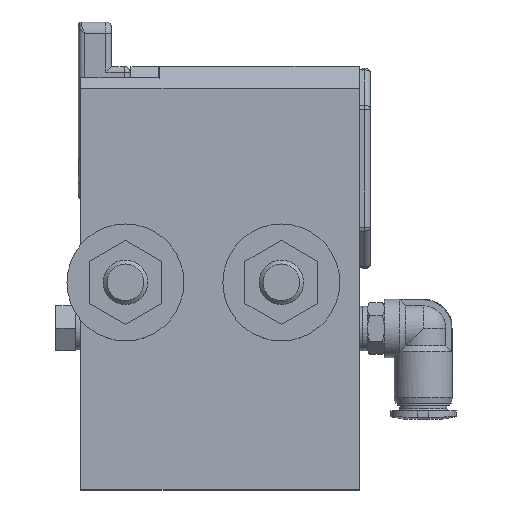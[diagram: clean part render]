
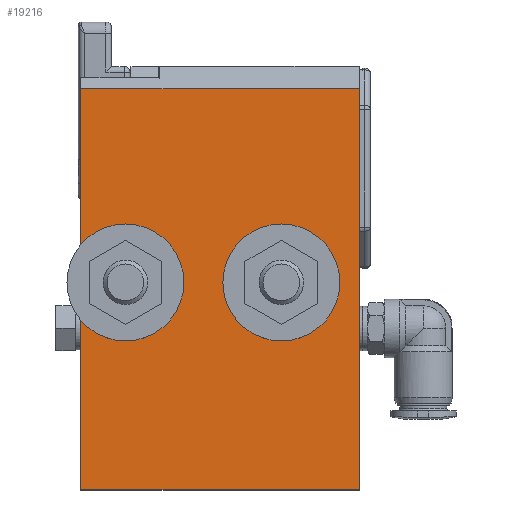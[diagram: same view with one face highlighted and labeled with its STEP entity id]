
A CAD part, top view. The second image highlights one B-rep face of the part: STEP entity #19216.
In plain terms, the highlighted planar face has unit normal (0, 0, 1).
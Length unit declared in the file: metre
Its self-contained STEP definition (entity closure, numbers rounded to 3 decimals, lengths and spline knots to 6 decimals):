
#166 = DIRECTION ( 'NONE',  ( 0., 0., 1. ) ) ;
#561 = LINE ( 'NONE', #8692, #12507 ) ;
#938 = LINE ( 'NONE', #5942, #5884 ) ;
#979 = EDGE_CURVE ( 'NONE', #3862, #24183, #561, .T. ) ;
#1188 = AXIS2_PLACEMENT_3D ( 'NONE', #12855, #166, #15000 ) ;
#1417 = EDGE_CURVE ( 'NONE', #5812, #5812, #19407, .T. ) ;
#2676 = EDGE_CURVE ( 'NONE', #15685, #6953, #21649, .T. ) ;
#2987 = CIRCLE ( 'NONE', #1188, 0.0051 ) ;
#3862 = VERTEX_POINT ( 'NONE', #18558 ) ;
#4079 = CARTESIAN_POINT ( 'NONE',  ( 0.0005, 0.0388, 0.02 ) ) ;
#4324 = EDGE_CURVE ( 'NONE', #6953, #3862, #22702, .T. ) ;
#4362 = EDGE_LOOP ( 'NONE', ( #13450, #10790, #14736, #19642 ) ) ;
#5812 = VERTEX_POINT ( 'NONE', #8558 ) ;
#5884 = VECTOR ( 'NONE', #8082, 1. ) ;
#5942 = CARTESIAN_POINT ( 'NONE',  ( 0.0005, -0.0372, 0.02 ) ) ;
#6483 = VECTOR ( 'NONE', #20205, 1. ) ;
#6953 = VERTEX_POINT ( 'NONE', #21683 ) ;
#7360 = CARTESIAN_POINT ( 'NONE',  ( 0.0005, -0.0372, 0.02 ) ) ;
#8082 = DIRECTION ( 'NONE',  ( 0., -1., 0. ) ) ;
#8290 = ORIENTED_EDGE ( 'NONE', *, *, #1417, .F. ) ;
#8558 = CARTESIAN_POINT ( 'NONE',  ( 0.0416, 0., 0.02 ) ) ;
#8643 = CARTESIAN_POINT ( 'NONE',  ( 0.0365, 0., 0.02 ) ) ;
#8692 = CARTESIAN_POINT ( 'NONE',  ( 0.0005, 0.0348, 0.02 ) ) ;
#9732 = EDGE_CURVE ( 'NONE', #20036, #20036, #2987, .T. ) ;
#10488 = DIRECTION ( 'NONE',  ( -1., 0., 0. ) ) ;
#10785 = DIRECTION ( 'NONE',  ( 1., 0., 0. ) ) ;
#10790 = ORIENTED_EDGE ( 'NONE', *, *, #979, .T. ) ;
#11323 = AXIS2_PLACEMENT_3D ( 'NONE', #8643, #23412, #10785 ) ;
#12507 = VECTOR ( 'NONE', #17207, 1. ) ;
#12513 = PLANE ( 'NONE',  #24263 ) ;
#12855 = CARTESIAN_POINT ( 'NONE',  ( 0.0085, 0., 0.02 ) ) ;
#12904 = CARTESIAN_POINT ( 'NONE',  ( 0.0136, 0., 0.02 ) ) ;
#13263 = EDGE_LOOP ( 'NONE', ( #8290 ) ) ;
#13450 = ORIENTED_EDGE ( 'NONE', *, *, #4324, .T. ) ;
#14736 = ORIENTED_EDGE ( 'NONE', *, *, #18738, .T. ) ;
#15000 = DIRECTION ( 'NONE',  ( 1., 0., 0. ) ) ;
#15481 = ORIENTED_EDGE ( 'NONE', *, *, #9732, .F. ) ;
#15685 = VERTEX_POINT ( 'NONE', #21127 ) ;
#16156 = EDGE_LOOP ( 'NONE', ( #15481 ) ) ;
#17207 = DIRECTION ( 'NONE',  ( -1., 0., 0. ) ) ;
#18558 = CARTESIAN_POINT ( 'NONE',  ( 0.0505, 0.0348, 0.02 ) ) ;
#18738 = EDGE_CURVE ( 'NONE', #24183, #15685, #938, .T. ) ;
#19216 = ADVANCED_FACE ( 'NONE', ( #22056, #27029, #21395 ), #12513, .F. ) ;
#19407 = CIRCLE ( 'NONE', #11323, 0.0051 ) ;
#19642 = ORIENTED_EDGE ( 'NONE', *, *, #2676, .T. ) ;
#20036 = VERTEX_POINT ( 'NONE', #12904 ) ;
#20205 = DIRECTION ( 'NONE',  ( 0., 1., 0. ) ) ;
#21127 = CARTESIAN_POINT ( 'NONE',  ( 0.0005, -0.0372, 0.02 ) ) ;
#21395 = FACE_OUTER_BOUND ( 'NONE', #4362, .T. ) ;
#21468 = CARTESIAN_POINT ( 'NONE',  ( 0.0005, 0.0348, 0.02 ) ) ;
#21649 = LINE ( 'NONE', #7360, #27289 ) ;
#21683 = CARTESIAN_POINT ( 'NONE',  ( 0.0505, -0.0372, 0.02 ) ) ;
#22056 = FACE_BOUND ( 'NONE', #16156, .T. ) ;
#22315 = CARTESIAN_POINT ( 'NONE',  ( 0.0505, -0.0372, 0.02 ) ) ;
#22702 = LINE ( 'NONE', #22315, #6483 ) ;
#23098 = DIRECTION ( 'NONE',  ( 0., 0., -1. ) ) ;
#23412 = DIRECTION ( 'NONE',  ( 0., 0., 1. ) ) ;
#24183 = VERTEX_POINT ( 'NONE', #21468 ) ;
#24263 = AXIS2_PLACEMENT_3D ( 'NONE', #4079, #23098, #10488 ) ;
#24274 = DIRECTION ( 'NONE',  ( 1., 0., 0. ) ) ;
#27029 = FACE_BOUND ( 'NONE', #13263, .T. ) ;
#27289 = VECTOR ( 'NONE', #24274, 1. ) ;
